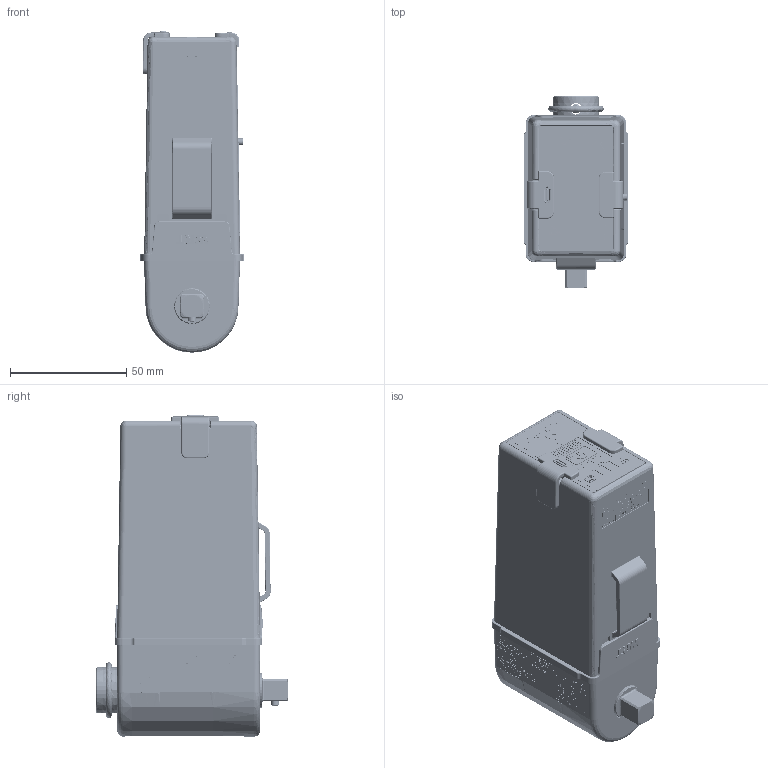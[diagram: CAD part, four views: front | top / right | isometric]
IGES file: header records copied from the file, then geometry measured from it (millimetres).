
Start section:  PTC IGES file: 6152210550_dim.igs
Global section: file name: 6152210550_dim.igs; native system: Creo Parametric by PTC Inc.; preprocessor: 2023254; author: S00000450; organization: Unknown; date: 20240301.151414; units: millimetre
Bounding box: 45 x 82.6 x 138.33 mm (x, y, z)
Surface area: 93728.4 mm2 (no closed solid volume)
Topology: 0 solids, 0 shells, 8989 faces, 49079 edges, 49009 vertices
Faces by surface type: bspline 4363, extrusion 3257, revolution 1369
